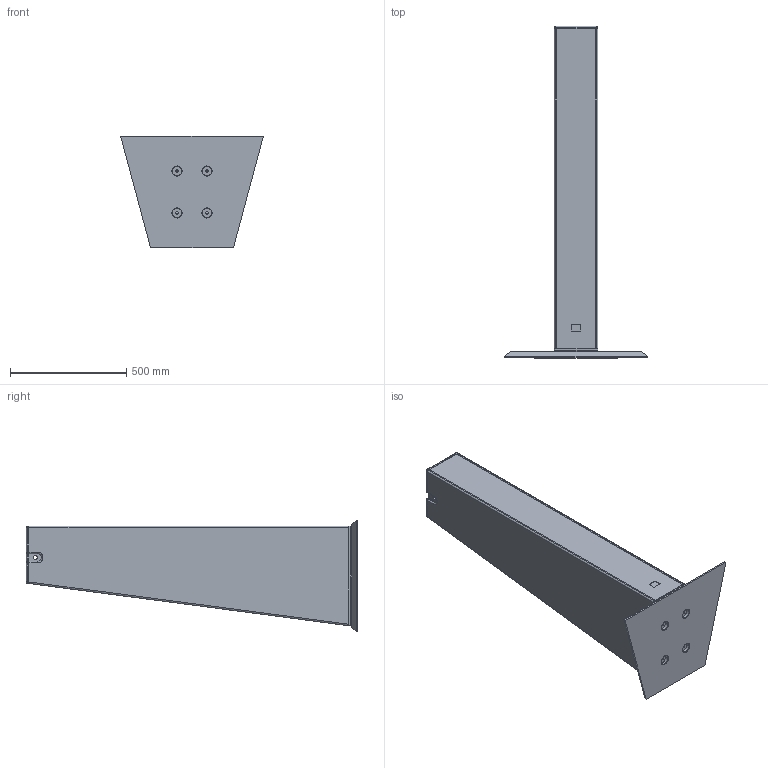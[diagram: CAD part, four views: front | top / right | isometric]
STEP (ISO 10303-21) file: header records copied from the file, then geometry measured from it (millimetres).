
FILE_DESCRIPTION (( 'STEP AP203' ), '1' );
FILE_NAME ('SEEBURG_GL-Sub.STEP', '2012-09-26T11:58:02', ( 'Fabian' ), ( '' ), 'SwSTEP 2.0', 'SolidWorks 2009', '' );
FILE_SCHEMA (( 'CONFIG_CONTROL_DESIGN' ));
Length unit declared in the file: millimetre
Products named in the file (13): Rückwand; Gegenplatte-ASF; Holzflansch-f黵-M10; Gitter_Default; SEEBURG_GL-Sub; Seitenteil; Front; Tunnel; Seitenwand-Lautsprecher; Boden; Deckel; GL-Sub_Bodenplatte_Standard; Abeckungen
Assembly tree (13 placements, depth 2):
  SEEBURG_GL-Sub
    Gegenplatte-ASF
    Boden
    Seitenwand-Lautsprecher
    GL-Sub_Bodenplatte_Standard
    Front
    Deckel
    Seitenteil
    Abeckungen
    Tunnel
    Gitter_Default
    Rückwand
    Holzflansch-f黵-M10  x2
Bounding box: 613.45 x 1427 x 479.11 mm (x, y, z)
Volume: 23543781.4 mm3; surface area: 3914557.2 mm2
Topology: 16 solids, 16 shells, 347 faces, 853 edges, 533 vertices
Faces by surface type: plane 167, cylinder 139, cone 18, sphere 13, torus 10
Entity records: 11236 total; most frequent: DIRECTION 1791, CARTESIAN_POINT 1711, ORIENTED_EDGE 1622, EDGE_CURVE 811, AXIS2_PLACEMENT_3D 641, VERTEX_POINT 513, VECTOR 509, LINE 509
